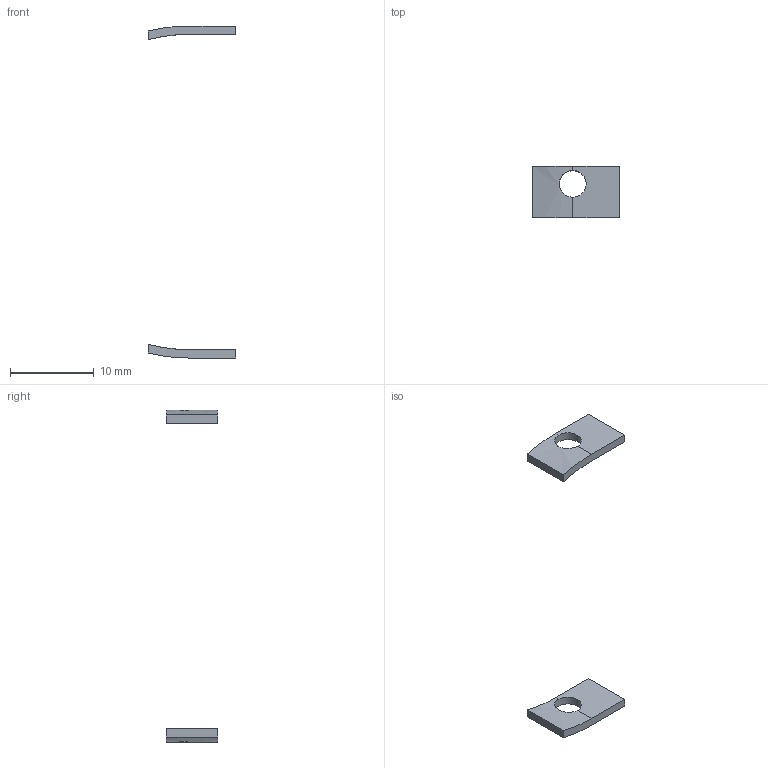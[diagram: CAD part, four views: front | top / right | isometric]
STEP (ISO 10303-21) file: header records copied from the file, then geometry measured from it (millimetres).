
FILE_DESCRIPTION(('Open CASCADE Model'),'2;1');
FILE_NAME('sensor-fastener-reference.step','2026-11-14T14:29:31',( 'Author'),('Open CASCADE'),'Open CASCADE STEP processor 8.0', 'Open CASCADE 8.0','Unknown');
FILE_SCHEMA(('AP242_MANAGED_MODEL_BASED_3D_ENGINEERING_MIM_LF {1 0 10303 442 1 1 4 }' ));
Length unit declared in the file: millimetre
Products named in the file (1): Sensor Fastener Reference
Bounding box: 10.41 x 6.09 x 39.6 mm (x, y, z)
Volume: 111.3 mm3; surface area: 309.3 mm2
Topology: 2 solids, 2 shells, 20 faces, 60 edges, 40 vertices
Faces by surface type: plane 12, cylinder 8
Entity records: 2288 total; most frequent: CARTESIAN_POINT 1113, DIRECTION 210, LINE 124, VECTOR 124, ORIENTED_EDGE 120, PCURVE 120, DEFINITIONAL_REPRESENTATION 120, EDGE_CURVE 60
